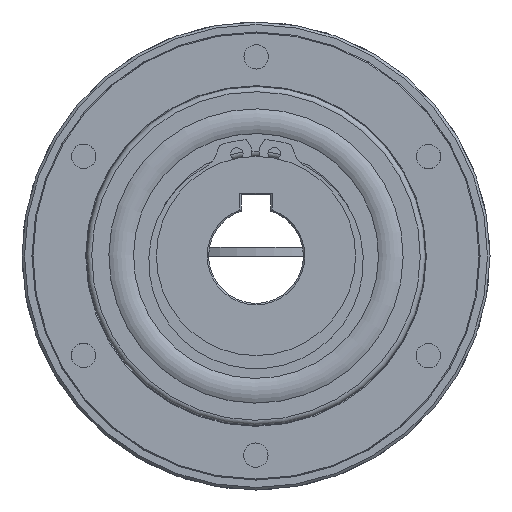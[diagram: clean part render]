
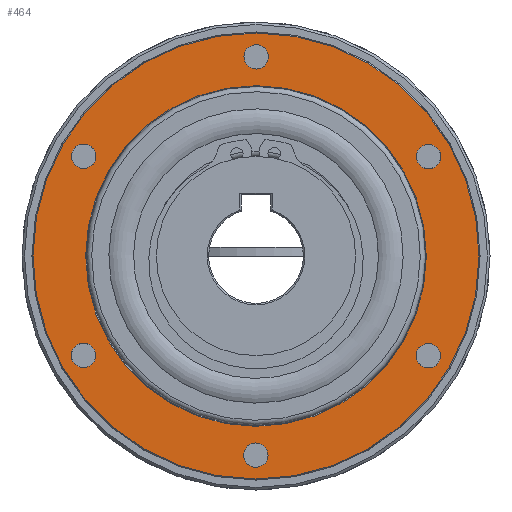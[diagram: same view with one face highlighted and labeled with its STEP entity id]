
A CAD part, left-side view. The second image highlights one B-rep face of the part: STEP entity #464.
In plain terms, the highlighted planar face has unit normal (-1, 0, 0).
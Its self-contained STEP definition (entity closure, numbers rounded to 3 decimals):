
#464 = ADVANCED_FACE( '', ( #821, #822, #823, #824, #825, #826, #827, #828 ), #829, .F. );
#821 = FACE_OUTER_BOUND( '', #1166, .T. );
#822 = FACE_BOUND( '', #1167, .T. );
#823 = FACE_BOUND( '', #1168, .T. );
#824 = FACE_BOUND( '', #1169, .T. );
#825 = FACE_BOUND( '', #1170, .T. );
#826 = FACE_BOUND( '', #1171, .T. );
#827 = FACE_BOUND( '', #1172, .T. );
#828 = FACE_BOUND( '', #1173, .T. );
#829 = PLANE( '', #1174 );
#1166 = EDGE_LOOP( '', ( #1825 ) );
#1167 = EDGE_LOOP( '', ( #1826 ) );
#1168 = EDGE_LOOP( '', ( #1827 ) );
#1169 = EDGE_LOOP( '', ( #1828 ) );
#1170 = EDGE_LOOP( '', ( #1829 ) );
#1171 = EDGE_LOOP( '', ( #1830 ) );
#1172 = EDGE_LOOP( '', ( #1831 ) );
#1173 = EDGE_LOOP( '', ( #1832 ) );
#1174 = AXIS2_PLACEMENT_3D( '', #1833, #1834, #1835 );
#1825 = ORIENTED_EDGE( '', *, *, #2080, .T. );
#1826 = ORIENTED_EDGE( '', *, *, #2081, .T. );
#1827 = ORIENTED_EDGE( '', *, *, #2082, .T. );
#1828 = ORIENTED_EDGE( '', *, *, #2083, .T. );
#1829 = ORIENTED_EDGE( '', *, *, #2084, .T. );
#1830 = ORIENTED_EDGE( '', *, *, #2085, .T. );
#1831 = ORIENTED_EDGE( '', *, *, #2086, .T. );
#1832 = ORIENTED_EDGE( '', *, *, #2087, .T. );
#1833 = CARTESIAN_POINT( '', ( -14.3, 45., 0. ) );
#1834 = DIRECTION( '', ( 1., 0., 0. ) );
#1835 = DIRECTION( '', ( 0., 1., 0. ) );
#2080 = EDGE_CURVE( '', #2389, #2389, #2390, .T. );
#2081 = EDGE_CURVE( '', #2391, #2391, #2392, .T. );
#2082 = EDGE_CURVE( '', #2393, #2393, #2394, .T. );
#2083 = EDGE_CURVE( '', #2395, #2395, #2396, .T. );
#2084 = EDGE_CURVE( '', #2397, #2397, #2398, .T. );
#2085 = EDGE_CURVE( '', #2399, #2399, #2400, .T. );
#2086 = EDGE_CURVE( '', #2401, #2401, #2402, .T. );
#2087 = EDGE_CURVE( '', #2403, #2403, #2404, .T. );
#2389 = VERTEX_POINT( '', #3063 );
#2390 = CIRCLE( '', #3064, 44.8 );
#2391 = VERTEX_POINT( '', #3065 );
#2392 = CIRCLE( '', #3066, 34.2 );
#2393 = VERTEX_POINT( '', #3067 );
#2394 = CIRCLE( '', #3068, 2.459 );
#2395 = VERTEX_POINT( '', #3069 );
#2396 = CIRCLE( '', #3070, 2.459 );
#2397 = VERTEX_POINT( '', #3071 );
#2398 = CIRCLE( '', #3072, 2.459 );
#2399 = VERTEX_POINT( '', #3073 );
#2400 = CIRCLE( '', #3074, 2.459 );
#2401 = VERTEX_POINT( '', #3075 );
#2402 = CIRCLE( '', #3076, 2.459 );
#2403 = VERTEX_POINT( '', #3077 );
#2404 = CIRCLE( '', #3078, 2.459 );
#3063 = CARTESIAN_POINT( '', ( -14.3, 0., -44.8 ) );
#3064 = AXIS2_PLACEMENT_3D( '', #3417, #3418, #3419 );
#3065 = CARTESIAN_POINT( '', ( -14.3, 0., -34.2 ) );
#3066 = AXIS2_PLACEMENT_3D( '', #3420, #3421, #3422 );
#3067 = CARTESIAN_POINT( '', ( -14.3, 36.77, 21.229 ) );
#3068 = AXIS2_PLACEMENT_3D( '', #3423, #3424, #3425 );
#3069 = CARTESIAN_POINT( '', ( -14.3, 36.77, -21.229 ) );
#3070 = AXIS2_PLACEMENT_3D( '', #3426, #3427, #3428 );
#3071 = CARTESIAN_POINT( '', ( -14.3, 0., -42.459 ) );
#3072 = AXIS2_PLACEMENT_3D( '', #3429, #3430, #3431 );
#3073 = CARTESIAN_POINT( '', ( -14.3, -36.77, -21.229 ) );
#3074 = AXIS2_PLACEMENT_3D( '', #3432, #3433, #3434 );
#3075 = CARTESIAN_POINT( '', ( -14.3, -36.77, 21.229 ) );
#3076 = AXIS2_PLACEMENT_3D( '', #3435, #3436, #3437 );
#3077 = CARTESIAN_POINT( '', ( -14.3, 0., 42.459 ) );
#3078 = AXIS2_PLACEMENT_3D( '', #3438, #3439, #3440 );
#3417 = CARTESIAN_POINT( '', ( -14.3, 0., 0. ) );
#3418 = DIRECTION( '', ( -1., 0., 0. ) );
#3419 = DIRECTION( '', ( 0., 0., -1. ) );
#3420 = CARTESIAN_POINT( '', ( -14.3, 0., 0. ) );
#3421 = DIRECTION( '', ( 1., 0., 0. ) );
#3422 = DIRECTION( '', ( 0., 0., -1. ) );
#3423 = CARTESIAN_POINT( '', ( -14.3, 34.641, 20. ) );
#3424 = DIRECTION( '', ( 1., 0., 0. ) );
#3425 = DIRECTION( '', ( 0., 0.866, 0.5 ) );
#3426 = CARTESIAN_POINT( '', ( -14.3, 34.641, -20. ) );
#3427 = DIRECTION( '', ( 1., 0., 0. ) );
#3428 = DIRECTION( '', ( 0., 0.866, -0.5 ) );
#3429 = CARTESIAN_POINT( '', ( -14.3, 0., -40. ) );
#3430 = DIRECTION( '', ( 1., 0., 0. ) );
#3431 = DIRECTION( '', ( 0., 0., -1. ) );
#3432 = CARTESIAN_POINT( '', ( -14.3, -34.641, -20. ) );
#3433 = DIRECTION( '', ( 1., 0., 0. ) );
#3434 = DIRECTION( '', ( 0., -0.866, -0.5 ) );
#3435 = CARTESIAN_POINT( '', ( -14.3, -34.641, 20. ) );
#3436 = DIRECTION( '', ( 1., 0., 0. ) );
#3437 = DIRECTION( '', ( 0., -0.866, 0.5 ) );
#3438 = CARTESIAN_POINT( '', ( -14.3, 0., 40. ) );
#3439 = DIRECTION( '', ( 1., 0., 0. ) );
#3440 = DIRECTION( '', ( 0., 0., 1. ) );
